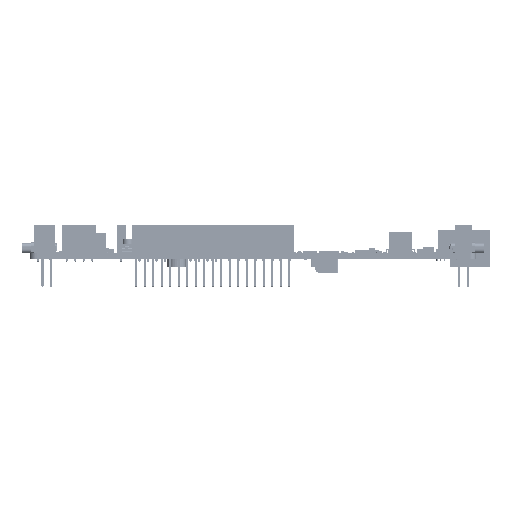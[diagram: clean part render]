
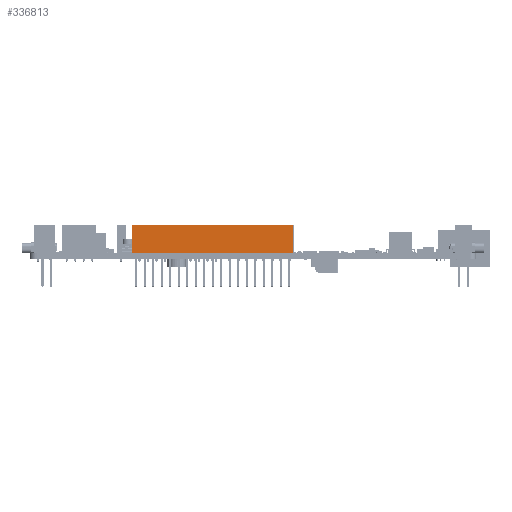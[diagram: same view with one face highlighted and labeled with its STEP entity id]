
A CAD part, left-side view. The second image highlights one B-rep face of the part: STEP entity #336813.
In plain terms, the highlighted planar face has unit normal (-1, 0, 0).
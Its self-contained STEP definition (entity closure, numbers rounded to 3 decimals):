
#336715 = EDGE_CURVE('',#336716,#336718,#336720,.T.);
#336716 = VERTEX_POINT('',#336717);
#336717 = CARTESIAN_POINT('',(-2.545,24.132,0.));
#336718 = VERTEX_POINT('',#336719);
#336719 = CARTESIAN_POINT('',(-2.545,24.132,8.38));
#336720 = LINE('',#336721,#336722);
#336721 = CARTESIAN_POINT('',(-2.545,24.132,0.));
#336722 = VECTOR('',#336723,1.);
#336723 = DIRECTION('',(0.,0.,1.));
#336788 = VERTEX_POINT('',#336789);
#336789 = CARTESIAN_POINT('',(-2.545,-24.132,8.38));
#336795 = EDGE_CURVE('',#336796,#336788,#336798,.T.);
#336796 = VERTEX_POINT('',#336797);
#336797 = CARTESIAN_POINT('',(-2.545,-24.132,0.));
#336798 = LINE('',#336799,#336800);
#336799 = CARTESIAN_POINT('',(-2.545,-24.132,0.));
#336800 = VECTOR('',#336801,1.);
#336801 = DIRECTION('',(0.,0.,1.));
#336813 = ADVANCED_FACE('',(#336814),#336830,.T.);
#336814 = FACE_BOUND('',#336815,.T.);
#336815 = EDGE_LOOP('',(#336816,#336817,#336823,#336824));
#336816 = ORIENTED_EDGE('',*,*,#336795,.T.);
#336817 = ORIENTED_EDGE('',*,*,#336818,.T.);
#336818 = EDGE_CURVE('',#336788,#336718,#336819,.T.);
#336819 = LINE('',#336820,#336821);
#336820 = CARTESIAN_POINT('',(-2.545,-24.132,8.38));
#336821 = VECTOR('',#336822,1.);
#336822 = DIRECTION('',(0.,1.,0.));
#336823 = ORIENTED_EDGE('',*,*,#336715,.F.);
#336824 = ORIENTED_EDGE('',*,*,#336825,.F.);
#336825 = EDGE_CURVE('',#336796,#336716,#336826,.T.);
#336826 = LINE('',#336827,#336828);
#336827 = CARTESIAN_POINT('',(-2.545,-24.132,0.));
#336828 = VECTOR('',#336829,1.);
#336829 = DIRECTION('',(0.,1.,0.));
#336830 = PLANE('',#336831);
#336831 = AXIS2_PLACEMENT_3D('',#336832,#336833,#336834);
#336832 = CARTESIAN_POINT('',(-2.545,-24.132,0.));
#336833 = DIRECTION('',(-1.,0.,0.));
#336834 = DIRECTION('',(0.,1.,0.));
